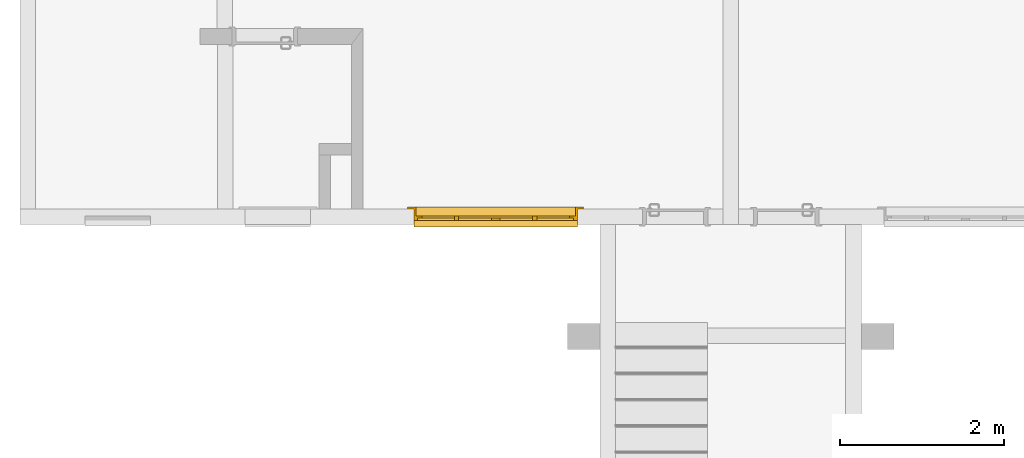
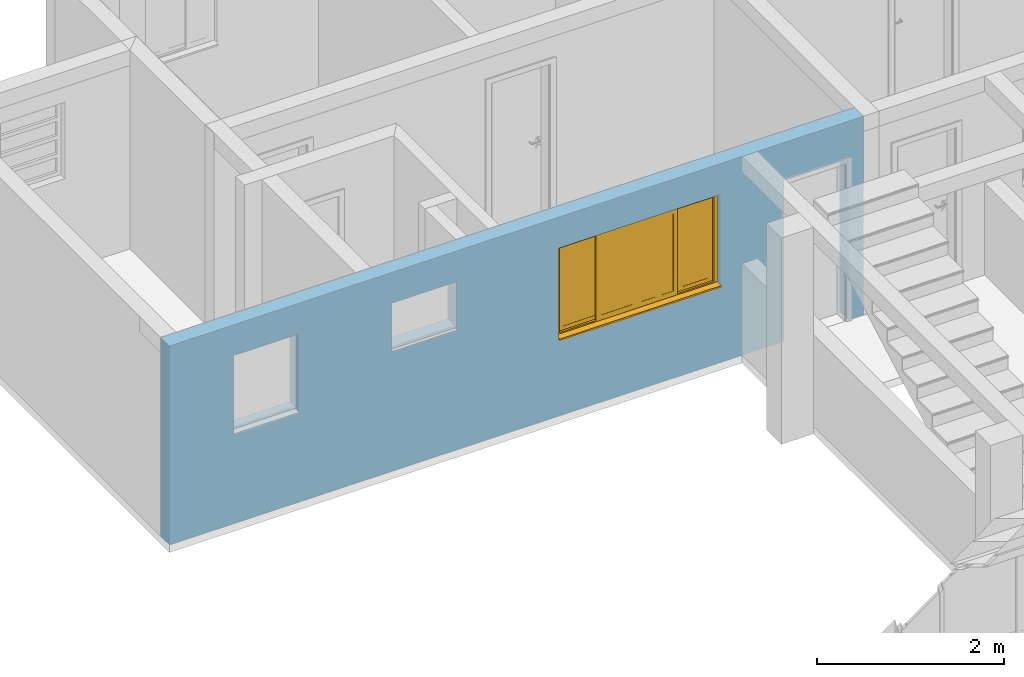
# One storey, part 25 of 43: 1 window, 4 openings, plus 1 element that does not belong to this part.
"""IFC2X3 building model written with IfcOpenShell, lengths in millimetres."""

from ifc_helpers import new_model, entity, si_unit, converted_unit, derived_unit, money_unit, direction, frame, origin_with_axes, origin_2d_with_axis, place, context, subcontext, project, spatial, polyline, rectangle, outline, extrude, open_shell, faceted_brep, surface_model, source, transform, mapped, material, layer, layer_set, layer_usage, type_object, element, fill, save


model = new_model("IFC2X3")

# Units and contexts
model_context = context("Model", 3, precision=0.01, world=origin_with_axes(), true_north=direction((0.0, 1.0)))
body_context = subcontext(model_context, "Body", "Model", "MODEL_VIEW")
ifc_project = project(units=[si_unit("LENGTHUNIT", "METRE", prefix="MILLI"), si_unit("AREAUNIT", "SQUARE_METRE"), si_unit("VOLUMEUNIT", "CUBIC_METRE"), converted_unit("PLANEANGLEUNIT", "DEGREE", entity("IfcPlaneAngleMeasure", 0.0174532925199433), si_unit("PLANEANGLEUNIT", "RADIAN"), dimensions=[0, 0, 0, 0, 0, 0, 0]), money_unit("USD"), converted_unit("TIMEUNIT", "Year", entity("IfcTimeMeasure", 31557600.0), si_unit("TIMEUNIT", "SECOND"), dimensions=[0, 0, 1, 0, 0, 0, 0]), si_unit("MASSUNIT", "GRAM", prefix="KILO"), si_unit("THERMODYNAMICTEMPERATUREUNIT", "DEGREE_CELSIUS"), si_unit("LUMINOUSINTENSITYUNIT", "LUMEN"), si_unit("ENERGYUNIT", "JOULE", prefix="MEGA"), derived_unit("THERMALCONDUCTANCEUNIT", [(si_unit("POWERUNIT", "WATT"), 1), (si_unit("LENGTHUNIT", "METRE"), -1), (si_unit("THERMODYNAMICTEMPERATUREUNIT", "KELVIN"), -1)]), derived_unit("SPECIFICHEATCAPACITYUNIT", [(si_unit("ENERGYUNIT", "JOULE"), 1), (si_unit("MASSUNIT", "GRAM", prefix="KILO"), -1), (si_unit("THERMODYNAMICTEMPERATUREUNIT", "KELVIN"), -1)]), derived_unit("MASSDENSITYUNIT", [(si_unit("MASSUNIT", "GRAM", prefix="KILO"), 1), (si_unit("VOLUMEUNIT", "CUBIC_METRE"), -1)])], contexts=[model_context])

# Site, building, storey
site_placement = place(None, origin_with_axes())
site = spatial("IfcSite", under=ifc_project, at=site_placement, Name="Local", CompositionType="ELEMENT")
building_placement = place(site_placement, origin_with_axes())
building = spatial("IfcBuilding", under=site, at=building_placement, Name="Construção", CompositionType="ELEMENT")
storey_placement = place(building_placement, origin_with_axes())
storey = spatial("IfcBuildingStorey", under=building, at=storey_placement, Name="Pavimento Tipo", CompositionType="ELEMENT", Elevation=0.0)

# Wall, openings, window
ifc_material = material(Name="Concreto - Estrutural")
ifc_layer = layer(ifc_material, 190.0, ventilated="UNKNOWN")
ifc_layer_set = layer_set([ifc_layer], Name="Concreto - Estrutural 190")
ifc_layer_usage = layer_usage(ifc_layer_set, "AXIS2", "NEGATIVE", 0.0)
wall_type = type_object("IfcWallType", Name="Concreto - Estrutural 190", PredefinedType="NOTDEFINED")
wall_placement = place(storey_placement, frame((55117.434598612, 5832.461520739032, 0.0), z_axis=(0.0, 0.0, 1.0), x_axis=(1.0, 0.0, 0.0)))
wall = element("IfcWallStandardCase", 1, at=wall_placement, inside=storey, type_object=wall_type, material=ifc_layer_usage, Name="Apartamento 2 - Parede-001", context=body_context, shape_type="SweptSolid", body=[
    extrude(outline(polyline([(0.0, -190.0000000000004), (8584.765133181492, -190.0000000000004), (8584.765133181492, 0.0), (0.0, 0.0), (0.0, -190.0000000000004)])), origin_with_axes(), (0.0, 0.0, 1.0), 2600.0),
])
opening_1_placement = place(wall_placement, frame((1195.000000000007, 0.0, 1200.0), z_axis=(0.0, 0.0, 1.0), x_axis=(1.0, 0.0, 0.0)))
element("IfcOpeningElement", 2, at=opening_1_placement, cuts=wall, Name="Apartamento 2 - J03", context=body_context, shape_type="SweptSolid", body=[
    extrude(rectangle(XDim=799.9999999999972, YDim=1000.0, at=origin_2d_with_axis()), frame((0.0, -140.0000000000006, 500.0), z_axis=(0.0, -1.0, 0.0), x_axis=(-1.0, 0.0, 0.0)), (0.0, 0.0, -1.0), 330.0),
    extrude(rectangle(XDim=799.9999999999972, YDim=1000.0, at=origin_2d_with_axis()), frame((0.0, -140.0000000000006, 500.0), z_axis=(0.0, 1.0, 0.0), x_axis=(-1.0, 0.0, 0.0)), (0.0, 0.0, -1.0), 240.0),
    extrude(rectangle(XDim=799.9999999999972, YDim=30.00000000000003, at=origin_2d_with_axis()), frame((0.0, -105.0000000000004, -15.00000000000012), z_axis=(0.0, 1.0, 0.0), x_axis=(-1.0, 0.0, 0.0)), (0.0, 0.0, -1.0), 225.0),
])
opening_2_placement = place(wall_placement, frame((3149.999999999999, 0.0, 1600.0), z_axis=(0.0, 0.0, 1.0), x_axis=(1.0, 0.0, 0.0)))
element("IfcOpeningElement", 3, at=opening_2_placement, cuts=wall, Name="Apartamento 2 - J02", context=body_context, shape_type="SweptSolid", body=[
    extrude(rectangle(XDim=799.9999999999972, YDim=600.0000000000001, at=origin_2d_with_axis()), frame((0.0, 190.0000000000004, 300.0000000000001), z_axis=(0.0, -1.0, 0.0), x_axis=(-1.0, 0.0, 0.0)), (0.0, 0.0, 1.0), 570.0000000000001),
    extrude(rectangle(XDim=799.9999999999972, YDim=30.00000000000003, at=origin_2d_with_axis()), frame((0.0, -155.0000000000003, -15.00000000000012), z_axis=(0.0, 1.0, 0.0), x_axis=(-1.0, 0.0, 0.0)), (0.0, 0.0, -1.0), 225.0),
    extrude(rectangle(XDim=950.0000000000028, YDim=750.0, at=origin_2d_with_axis()), frame((0.0, 0.0, 300.0000000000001), z_axis=(0.0, -1.0, 0.0), x_axis=(-1.0, 0.0, 0.0)), (0.0, 0.0, -1.0), 190.0),
])
opening_3_placement = place(wall_placement, frame((5810.000000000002, 0.0, 1000.0), z_axis=(0.0, 0.0, 1.0), x_axis=(1.0, 0.0, 0.0)))
opening_3 = element("IfcOpeningElement", 4, at=opening_3_placement, cuts=wall, Name="Apartamento 2 - J01", context=body_context, shape_type="SweptSolid", body=[
    extrude(rectangle(XDim=2000.0, YDim=1200.0, at=origin_2d_with_axis()), frame((0.0, -140.0000000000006, 600.0000000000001), z_axis=(0.0, 1.0, 0.0), x_axis=(1.0, 0.0, 0.0)), (0.0, 0.0, 1.0), 330.0),
    extrude(rectangle(XDim=2000.0, YDim=1200.0, at=origin_2d_with_axis()), frame((0.0, -140.0000000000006, 600.0000000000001), z_axis=(0.0, -1.0, 0.0), x_axis=(1.0, 0.0, 0.0)), (0.0, 0.0, 1.0), 240.0),
    extrude(rectangle(XDim=2150.000000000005, YDim=1350.0, at=origin_2d_with_axis()), frame((0.0, 0.0, 599.9999999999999), z_axis=(0.0, 1.0, 0.0), x_axis=(1.0, 0.0, 0.0)), (0.0, 0.0, 1.0), 240.0),
])
opening_4_placement = place(wall_placement, frame((8000.000000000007, 0.0, 0.0), z_axis=(0.0, 0.0, 1.0), x_axis=(1.0, 0.0, 0.0)))
element("IfcOpeningElement", 5, at=opening_4_placement, cuts=wall, Name="Apartamento 2 - P01", context=body_context, shape_type="SweptSolid", body=[
    extrude(rectangle(XDim=799.9999999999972, YDim=2100.0, at=origin_2d_with_axis()), frame((0.0, 190.0000000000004, 1050.0), z_axis=(0.0, -1.0, 0.0), x_axis=(1.0, 0.0, 0.0)), (0.0, 0.0, 1.0), 570.0000000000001),
    extrude(rectangle(XDim=870.0000000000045, YDim=2135.0, at=origin_2d_with_axis()), frame((0.0, 0.0, 1067.5), z_axis=(0.0, -1.0, 0.0), x_axis=(1.0, 0.0, 0.0)), (0.0, 0.0, -1.0), 190.0),
    extrude(rectangle(XDim=870.0000000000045, YDim=2135.0, at=origin_2d_with_axis()), frame((0.0, -189.9999999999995, 1067.5), z_axis=(0.0, 1.0, 0.0), x_axis=(1.0, 0.0, 0.0)), (0.0, 0.0, -1.0), 190.0),
])
window_style = type_object("IfcWindowStyle", Name="Janela de Correr 4-Folhas 27", ConstructionType="NOTDEFINED", OperationType="USERDEFINED", ParameterTakesPrecedence=False, Sizeable=False)
shared_shape = source(origin_with_axes(), body_context, "Body", "SurfaceModel", [
    faceted_brep([(1000.0, 0.0, 5.0), (1000.0, 50.0, 5.000000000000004), (1000.0, 50.0, 27.37961103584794), (1000.0, 0.0, 30.0), (-1000.0, 0.0, 5.0), (-1000.0, 50.0, 5.000000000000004), (-1000.0, 80.0, 5.000000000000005), (1000.0, 80.0, 5.000000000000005), (1000.0, 80.0, 25.8073776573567), (-1000.0, 80.0, 25.8073776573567), (-1000.0, 50.0, 27.37961103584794), (-1000.0, 0.0, 30.0)], [[[0, 1, 2, 3]], [[0, 4, 5, 6, 7, 1]], [[1, 7, 8, 2]], [[3, 2, 8, 9, 10, 11]], [[4, 0, 3, 11]], [[5, 4, 11, 10]], [[6, 5, 10, 9]], [[7, 6, 9, 8]]]),
    faceted_brep([(1000.0, 0.0, 0.0), (1000.0, 50.0, 0.0), (1000.0, 50.0, 5.0), (1000.0, 0.0, 5.0), (-1000.0, 0.0, 0.0), (-1000.0, 50.0, 0.0), (-1000.0, 50.0, 5.0), (-1000.0, 0.0, 5.0)], [[[0, 1, 2, 3]], [[0, 4, 5, 1]], [[1, 5, 6, 2]], [[3, 2, 6, 7]], [[4, 0, 3, 7]], [[5, 4, 7, 6]]]),
    faceted_brep([(1000.0, -50.0, 0.0), (1000.0, -140.0, 0.0), (-1000.0, -140.0, 0.0), (-1000.0, -50.0, 0.0), (1000.0, -50.00000000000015, 1200.0), (1000.0, -140.0000000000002, 1200.0), (-1000.0, -140.0000000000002, 1200.0), (975.0, -140.0, 24.99999999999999), (-975.0, -140.0, 24.99999999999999), (-975.0, -140.0000000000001, 1175.0), (975.0, -140.0000000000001, 1175.0), (-1000.0, -50.00000000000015, 1200.0), (975.0, -50.0, 24.99999999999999), (975.0, -50.00000000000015, 1175.0), (-975.0, -50.00000000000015, 1175.0), (-975.0, -50.0, 24.99999999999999)], [[[0, 1, 2, 3]], [[4, 5, 1, 0]], [[1, 5, 6, 2], [7, 8, 9, 10]], [[3, 2, 6, 11]], [[0, 3, 11, 4], [12, 13, 14, 15]], [[11, 6, 5, 4]], [[15, 8, 7, 12]], [[14, 9, 8, 15]], [[13, 10, 9, 14]], [[12, 7, 10, 13]]]),
    faceted_brep([(1075.0, -165.0, -75.00000000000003), (975.0, -165.0, 24.99999999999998), (975.0, -140.0, 24.99999999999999), (1075.0, -140.0, -75.00000000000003), (1075.0, -165.0000000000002, 1275.0), (975.0, -165.0000000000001, 1175.0), (975.0, -140.0000000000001, 1175.0), (1075.0, -140.0000000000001, 1275.0)], [[[0, 1, 2, 3]], [[0, 4, 5, 1]], [[1, 5, 6, 2]], [[3, 2, 6, 7]], [[4, 0, 3, 7]], [[5, 4, 7, 6]]]),
    faceted_brep([(-1075.0, -165.0000000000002, 1275.0), (-975.0, -165.0000000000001, 1175.0), (-975.0, -140.0000000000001, 1175.0), (-1075.0, -140.0000000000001, 1275.0), (-1075.0, -165.0, -75.00000000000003), (-975.0, -165.0, 24.99999999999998), (-975.0, -140.0, 24.99999999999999), (-1075.0, -140.0, -75.00000000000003)], [[[0, 1, 2, 3]], [[0, 4, 5, 1]], [[1, 5, 6, 2]], [[3, 2, 6, 7]], [[4, 0, 3, 7]], [[5, 4, 7, 6]]]),
    faceted_brep([(-1075.0, -165.0, -75.00000000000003), (-975.0, -165.0, 24.99999999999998), (-975.0, -140.0, 24.99999999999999), (-1075.0, -140.0, -75.00000000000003), (1075.0, -165.0, -75.00000000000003), (975.0, -165.0, 24.99999999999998), (975.0, -140.0, 24.99999999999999), (1075.0, -140.0, -75.00000000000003)], [[[0, 1, 2, 3]], [[0, 4, 5, 1]], [[1, 5, 6, 2]], [[3, 2, 6, 7]], [[4, 0, 3, 7]], [[5, 4, 7, 6]]]),
    faceted_brep([(1075.0, -165.0000000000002, 1275.0), (975.0, -165.0000000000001, 1175.0), (975.0, -140.0000000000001, 1175.0), (1075.0, -140.0000000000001, 1275.0), (-1075.0, -165.0000000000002, 1275.0), (-975.0, -165.0000000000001, 1175.0), (-975.0, -140.0000000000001, 1175.0), (-1075.0, -140.0000000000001, 1275.0)], [[[0, 1, 2, 3]], [[0, 4, 5, 1]], [[1, 5, 6, 2]], [[3, 2, 6, 7]], [[4, 0, 3, 7]], [[5, 4, 7, 6]]]),
    faceted_brep([(953.0, -50.00000000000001, 47.0), (953.0, -50.00000000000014, 1153.0), (953.0, 0.0, 1153.0), (953.0, 0.0, 47.00000000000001), (1000.0, -50.00000000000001, 47.0), (1000.0, -50.00000000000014, 1153.0), (1000.0, 0.0, 1153.0), (1000.0, 0.0, 47.00000000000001)], [[[0, 1, 2, 3]], [[0, 4, 5, 1]], [[1, 5, 6, 2]], [[3, 2, 6, 7]], [[4, 0, 3, 7]], [[5, 4, 7, 6]]]),
    faceted_brep([(-1000.0, -50.00000000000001, 47.0), (-1000.0, -50.00000000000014, 1153.0), (-1000.0, 0.0, 1153.0), (-1000.0, 0.0, 47.00000000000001), (-953.0, -50.00000000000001, 47.0), (-953.0, -50.00000000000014, 1153.0), (-953.0, 0.0, 1153.0), (-953.0, 0.0, 47.00000000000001)], [[[0, 1, 2, 3]], [[0, 4, 5, 1]], [[1, 5, 6, 2]], [[3, 2, 6, 7]], [[4, 0, 3, 7]], [[5, 4, 7, 6]]]),
    faceted_brep([(-1000.0, -50.00000000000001, 47.0), (-953.0, -50.00000000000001, 47.0), (-953.0, 0.0, 47.00000000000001), (-1000.0, 0.0, 47.00000000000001), (-1000.0, -50.0, 0.0), (1000.0, -50.0, 0.0), (1000.0, -50.00000000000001, 47.0), (953.0, -50.00000000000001, 47.0), (953.0, 0.0, 47.00000000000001), (1000.0, 0.0, 47.00000000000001), (1000.0, 0.0, 0.0), (-1000.0, 0.0, 0.0)], [[[0, 1, 2, 3]], [[0, 4, 5, 6, 7, 1]], [[1, 7, 8, 2]], [[3, 2, 8, 9, 10, 11]], [[4, 0, 3, 11]], [[5, 4, 11, 10]], [[6, 5, 10, 9]], [[7, 6, 9, 8]]]),
    faceted_brep([(-1000.0, -50.00000000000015, 1200.0), (1000.0, -50.00000000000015, 1200.0), (1000.0, 0.0, 1200.0), (-1000.0, 0.0, 1200.0), (-1000.0, -50.00000000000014, 1153.0), (-953.0, -50.00000000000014, 1153.0), (-476.5000000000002, -50.00000000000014, 1153.0), (0.0, -50.00000000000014, 1153.0), (476.4999999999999, -50.00000000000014, 1153.0), (953.0, -50.00000000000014, 1153.0), (1000.0, -50.00000000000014, 1153.0), (1000.0, 0.0, 1153.0), (953.0, 0.0, 1153.0), (476.4999999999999, 0.0, 1153.0), (0.0, 0.0, 1153.0), (-476.5000000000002, 0.0, 1153.0), (-953.0, 0.0, 1153.0), (-1000.0, 0.0, 1153.0)], [[[0, 1, 2, 3]], [[0, 4, 5, 6, 7, 8, 9, 10, 1]], [[1, 10, 11, 2]], [[3, 2, 11, 12, 13, 14, 15, 16, 17]], [[4, 0, 3, 17]], [[5, 4, 17, 16]], [[6, 5, 16, 15]], [[7, 6, 15, 14]], [[8, 7, 14, 13]], [[9, 8, 13, 12]], [[10, 9, 12, 11]]]),
    faceted_brep([(903.0, -50.00000000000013, 1103.0), (953.0, -50.00000000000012, 1103.0), (953.0, -25.00000000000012, 1103.0), (903.0, -25.00000000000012, 1103.0), (903.0, -50.0, 97.0), (953.0, -50.0, 97.0), (953.0, -25.0, 97.0), (903.0, -25.0, 97.0)], [[[0, 1, 2, 3]], [[0, 4, 5, 1]], [[1, 5, 6, 2]], [[3, 2, 6, 7]], [[4, 0, 3, 7]], [[5, 4, 7, 6]]]),
    faceted_brep([(501.4999999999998, -50.00000000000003, 97.0), (451.4999999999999, -50.00000000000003, 97.0), (451.4999999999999, -25.00000000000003, 97.0), (501.4999999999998, -25.00000000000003, 97.0), (501.4999999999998, -50.00000000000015, 1103.0), (451.4999999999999, -50.00000000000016, 1103.0), (451.4999999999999, -25.00000000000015, 1103.0), (501.4999999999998, -25.00000000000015, 1103.0)], [[[0, 1, 2, 3]], [[0, 4, 5, 1]], [[1, 5, 6, 2]], [[3, 2, 6, 7]], [[4, 0, 3, 7]], [[5, 4, 7, 6]]]),
    faceted_brep([(451.4999999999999, -50.00000000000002, 47.0), (451.4999999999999, -50.00000000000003, 97.0), (451.4999999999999, -25.00000000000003, 97.0), (451.4999999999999, -25.00000000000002, 47.0), (953.0, -49.99999999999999, 47.0), (953.0, -50.0, 97.0), (903.0, -50.0, 97.0), (501.4999999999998, -50.00000000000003, 97.0), (501.4999999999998, -25.00000000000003, 97.0), (903.0, -25.0, 97.0), (953.0, -25.0, 97.0), (953.0, -24.99999999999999, 47.0)], [[[0, 1, 2, 3]], [[0, 4, 5, 6, 7, 1]], [[1, 7, 8, 2]], [[3, 2, 8, 9, 10, 11]], [[4, 0, 3, 11]], [[5, 4, 11, 10]], [[6, 5, 10, 9]], [[7, 6, 9, 8]]]),
    faceted_brep([(953.0, -50.00000000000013, 1153.0), (953.0, -50.00000000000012, 1103.0), (953.0, -25.00000000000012, 1103.0), (953.0, -25.00000000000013, 1153.0), (451.4999999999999, -50.00000000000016, 1153.0), (451.4999999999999, -50.00000000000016, 1103.0), (501.4999999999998, -50.00000000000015, 1103.0), (903.0, -50.00000000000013, 1103.0), (903.0, -25.00000000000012, 1103.0), (501.4999999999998, -25.00000000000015, 1103.0), (451.4999999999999, -25.00000000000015, 1103.0), (451.4999999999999, -25.00000000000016, 1153.0)], [[[0, 1, 2, 3]], [[0, 4, 5, 6, 7, 1]], [[1, 7, 8, 2]], [[3, 2, 8, 9, 10, 11]], [[4, 0, 3, 11]], [[5, 4, 11, 10]], [[6, 5, 10, 9]], [[7, 6, 9, 8]]]),
    surface_model("IfcShellBasedSurfaceModel", [(903.0, -47.50000000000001, 97.0), (903.0, -47.50000000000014, 1103.0), (501.4999999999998, -47.50000000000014, 1103.0), (501.4999999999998, -47.50000000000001, 97.0)], [open_shell([[[0, 1, 2, 3]]])]),
    surface_model("IfcShellBasedSurfaceModel", [(903.0, -27.50000000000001, 97.0), (501.4999999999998, -27.50000000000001, 97.0), (501.4999999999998, -27.50000000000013, 1103.0), (903.0, -27.50000000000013, 1103.0)], [open_shell([[[0, 1, 2, 3]]])]),
    faceted_brep([(451.4999999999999, -25.00000000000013, 1103.0), (501.4999999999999, -25.00000000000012, 1103.0), (501.4999999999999, 0.0, 1103.0), (451.4999999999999, 0.0, 1103.0), (451.4999999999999, -25.0, 97.0), (501.4999999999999, -25.0, 97.0), (501.4999999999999, 0.0, 97.0), (451.4999999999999, 0.0, 97.0)], [[[0, 1, 2, 3]], [[0, 4, 5, 1]], [[1, 5, 6, 2]], [[3, 2, 6, 7]], [[4, 0, 3, 7]], [[5, 4, 7, 6]]]),
    faceted_brep([(49.99999999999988, -25.00000000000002, 97.0), (0.0, -25.00000000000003, 97.0), (0.0, 0.0, 97.0), (49.99999999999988, 0.0, 97.0), (49.99999999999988, -25.00000000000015, 1103.0), (0.0, -25.00000000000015, 1103.0), (0.0, 0.0, 1103.0), (49.99999999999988, 0.0, 1103.0)], [[[0, 1, 2, 3]], [[0, 4, 5, 1]], [[1, 5, 6, 2]], [[3, 2, 6, 7]], [[4, 0, 3, 7]], [[5, 4, 7, 6]]]),
    faceted_brep([(0.0, -25.00000000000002, 47.0), (0.0, -25.00000000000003, 97.0), (0.0, 0.0, 97.0), (0.0, 0.0, 47.0), (501.4999999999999, -24.99999999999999, 47.0), (501.4999999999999, -25.0, 97.0), (451.4999999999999, -25.0, 97.0), (49.99999999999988, -25.00000000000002, 97.0), (49.99999999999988, 0.0, 97.0), (451.4999999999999, 0.0, 97.0), (501.4999999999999, 0.0, 97.0), (501.4999999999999, 0.0, 47.0)], [[[0, 1, 2, 3]], [[0, 4, 5, 6, 7, 1]], [[1, 7, 8, 2]], [[3, 2, 8, 9, 10, 11]], [[4, 0, 3, 11]], [[5, 4, 11, 10]], [[6, 5, 10, 9]], [[7, 6, 9, 8]]]),
    faceted_brep([(501.4999999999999, -25.00000000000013, 1153.0), (501.4999999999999, -25.00000000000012, 1103.0), (501.4999999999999, 0.0, 1103.0), (501.4999999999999, 0.0, 1153.0), (0.0, -25.00000000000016, 1153.0), (0.0, -25.00000000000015, 1103.0), (49.99999999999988, -25.00000000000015, 1103.0), (451.4999999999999, -25.00000000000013, 1103.0), (451.4999999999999, 0.0, 1103.0), (49.99999999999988, 0.0, 1103.0), (0.0, 0.0, 1103.0), (0.0, 0.0, 1153.0)], [[[0, 1, 2, 3]], [[0, 4, 5, 6, 7, 1]], [[1, 7, 8, 2]], [[3, 2, 8, 9, 10, 11]], [[4, 0, 3, 11]], [[5, 4, 11, 10]], [[6, 5, 10, 9]], [[7, 6, 9, 8]]]),
    surface_model("IfcShellBasedSurfaceModel", [(451.4999999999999, -22.50000000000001, 97.0), (451.4999999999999, -22.50000000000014, 1103.0), (49.99999999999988, -22.50000000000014, 1103.0), (49.99999999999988, -22.50000000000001, 97.0)], [open_shell([[[0, 1, 2, 3]]])]),
    surface_model("IfcShellBasedSurfaceModel", [(451.4999999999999, -2.500000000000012, 97.0), (49.99999999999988, -2.500000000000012, 97.0), (49.99999999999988, -2.500000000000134, 1103.0), (451.4999999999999, -2.500000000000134, 1103.0)], [open_shell([[[0, 1, 2, 3]]])]),
    faceted_brep([(-50.0000000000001, -25.00000000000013, 1103.0), (0.0, -25.00000000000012, 1103.0), (0.0, 0.0, 1103.0), (-50.0000000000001, 0.0, 1103.0), (-50.0000000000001, -25.0, 97.0), (0.0, -25.0, 97.0), (0.0, 0.0, 97.0), (-50.0000000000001, 0.0, 97.0)], [[[0, 1, 2, 3]], [[0, 4, 5, 1]], [[1, 5, 6, 2]], [[3, 2, 6, 7]], [[4, 0, 3, 7]], [[5, 4, 7, 6]]]),
    faceted_brep([(-451.5000000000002, -25.00000000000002, 97.0), (-501.5000000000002, -25.00000000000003, 97.0), (-501.5000000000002, 0.0, 97.0), (-451.5000000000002, 0.0, 97.0), (-451.5000000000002, -25.00000000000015, 1103.0), (-501.5000000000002, -25.00000000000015, 1103.0), (-501.5000000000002, 0.0, 1103.0), (-451.5000000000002, 0.0, 1103.0)], [[[0, 1, 2, 3]], [[0, 4, 5, 1]], [[1, 5, 6, 2]], [[3, 2, 6, 7]], [[4, 0, 3, 7]], [[5, 4, 7, 6]]]),
    faceted_brep([(-501.5000000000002, -25.00000000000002, 47.0), (-501.5000000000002, -25.00000000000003, 97.0), (-501.5000000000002, 0.0, 97.0), (-501.5000000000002, 0.0, 47.0), (0.0, -24.99999999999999, 47.0), (0.0, -25.0, 97.0), (-50.0000000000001, -25.0, 97.0), (-451.5000000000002, -25.00000000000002, 97.0), (-451.5000000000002, 0.0, 97.0), (-50.0000000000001, 0.0, 97.0), (0.0, 0.0, 97.0), (0.0, 0.0, 47.0)], [[[0, 1, 2, 3]], [[0, 4, 5, 6, 7, 1]], [[1, 7, 8, 2]], [[3, 2, 8, 9, 10, 11]], [[4, 0, 3, 11]], [[5, 4, 11, 10]], [[6, 5, 10, 9]], [[7, 6, 9, 8]]]),
    faceted_brep([(0.0, -25.00000000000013, 1153.0), (0.0, -25.00000000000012, 1103.0), (0.0, 0.0, 1103.0), (0.0, 0.0, 1153.0), (-501.5000000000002, -25.00000000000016, 1153.0), (-501.5000000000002, -25.00000000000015, 1103.0), (-451.5000000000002, -25.00000000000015, 1103.0), (-50.0000000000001, -25.00000000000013, 1103.0), (-50.0000000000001, 0.0, 1103.0), (-451.5000000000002, 0.0, 1103.0), (-501.5000000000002, 0.0, 1103.0), (-501.5000000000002, 0.0, 1153.0)], [[[0, 1, 2, 3]], [[0, 4, 5, 6, 7, 1]], [[1, 7, 8, 2]], [[3, 2, 8, 9, 10, 11]], [[4, 0, 3, 11]], [[5, 4, 11, 10]], [[6, 5, 10, 9]], [[7, 6, 9, 8]]]),
    surface_model("IfcShellBasedSurfaceModel", [(-50.0000000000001, -22.50000000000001, 97.0), (-50.0000000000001, -22.50000000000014, 1103.0), (-451.5000000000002, -22.50000000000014, 1103.0), (-451.5000000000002, -22.50000000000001, 97.0)], [open_shell([[[0, 1, 2, 3]]])]),
    surface_model("IfcShellBasedSurfaceModel", [(-50.0000000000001, -2.500000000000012, 97.0), (-451.5000000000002, -2.500000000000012, 97.0), (-451.5000000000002, -2.500000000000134, 1103.0), (-50.0000000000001, -2.500000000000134, 1103.0)], [open_shell([[[0, 1, 2, 3]]])]),
    faceted_brep([(-501.5000000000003, -50.00000000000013, 1103.0), (-451.5000000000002, -50.00000000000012, 1103.0), (-451.5000000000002, -25.00000000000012, 1103.0), (-501.5000000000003, -25.00000000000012, 1103.0), (-501.5000000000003, -50.0, 97.0), (-451.5000000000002, -50.0, 97.0), (-451.5000000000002, -25.0, 97.0), (-501.5000000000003, -25.0, 97.0)], [[[0, 1, 2, 3]], [[0, 4, 5, 1]], [[1, 5, 6, 2]], [[3, 2, 6, 7]], [[4, 0, 3, 7]], [[5, 4, 7, 6]]]),
    faceted_brep([(-903.0000000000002, -50.00000000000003, 97.0), (-953.0000000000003, -50.00000000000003, 97.0), (-953.0000000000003, -25.00000000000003, 97.0), (-903.0000000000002, -25.00000000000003, 97.0), (-903.0000000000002, -50.00000000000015, 1103.0), (-953.0000000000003, -50.00000000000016, 1103.0), (-953.0000000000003, -25.00000000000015, 1103.0), (-903.0000000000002, -25.00000000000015, 1103.0)], [[[0, 1, 2, 3]], [[0, 4, 5, 1]], [[1, 5, 6, 2]], [[3, 2, 6, 7]], [[4, 0, 3, 7]], [[5, 4, 7, 6]]]),
    faceted_brep([(-953.0000000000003, -50.00000000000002, 47.0), (-953.0000000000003, -50.00000000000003, 97.0), (-953.0000000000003, -25.00000000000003, 97.0), (-953.0000000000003, -25.00000000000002, 47.0), (-451.5000000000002, -49.99999999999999, 47.0), (-451.5000000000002, -50.0, 97.0), (-501.5000000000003, -50.0, 97.0), (-903.0000000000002, -50.00000000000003, 97.0), (-903.0000000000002, -25.00000000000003, 97.0), (-501.5000000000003, -25.0, 97.0), (-451.5000000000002, -25.0, 97.0), (-451.5000000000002, -24.99999999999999, 47.0)], [[[0, 1, 2, 3]], [[0, 4, 5, 6, 7, 1]], [[1, 7, 8, 2]], [[3, 2, 8, 9, 10, 11]], [[4, 0, 3, 11]], [[5, 4, 11, 10]], [[6, 5, 10, 9]], [[7, 6, 9, 8]]]),
    faceted_brep([(-451.5000000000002, -50.00000000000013, 1153.0), (-451.5000000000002, -50.00000000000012, 1103.0), (-451.5000000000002, -25.00000000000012, 1103.0), (-451.5000000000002, -25.00000000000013, 1153.0), (-953.0000000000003, -50.00000000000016, 1153.0), (-953.0000000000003, -50.00000000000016, 1103.0), (-903.0000000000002, -50.00000000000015, 1103.0), (-501.5000000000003, -50.00000000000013, 1103.0), (-501.5000000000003, -25.00000000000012, 1103.0), (-903.0000000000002, -25.00000000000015, 1103.0), (-953.0000000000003, -25.00000000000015, 1103.0), (-953.0000000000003, -25.00000000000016, 1153.0)], [[[0, 1, 2, 3]], [[0, 4, 5, 6, 7, 1]], [[1, 7, 8, 2]], [[3, 2, 8, 9, 10, 11]], [[4, 0, 3, 11]], [[5, 4, 11, 10]], [[6, 5, 10, 9]], [[7, 6, 9, 8]]]),
    surface_model("IfcShellBasedSurfaceModel", [(-501.5000000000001, -47.50000000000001, 97.0), (-501.5000000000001, -47.50000000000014, 1103.0), (-903.0000000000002, -47.50000000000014, 1103.0), (-903.0000000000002, -47.50000000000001, 97.0)], [open_shell([[[0, 1, 2, 3]]])]),
    surface_model("IfcShellBasedSurfaceModel", [(-501.5000000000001, -27.50000000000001, 97.0), (-903.0000000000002, -27.50000000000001, 97.0), (-903.0000000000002, -27.50000000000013, 1103.0), (-501.5000000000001, -27.50000000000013, 1103.0)], [open_shell([[[0, 1, 2, 3]]])]),
])
window_placement = place(opening_3_placement, frame((1000.0, 0.0, 0.0), z_axis=(0.0, 0.0, 1.0), x_axis=(-1.0, 0.0, 0.0)))
window = element("IfcWindow", 6, at=window_placement, inside=storey, type_object=window_style, Name="Apartamento 2 - J01", ObjectType="WINDOW", OverallHeight=1200.0, OverallWidth=2000.0, context=body_context, shape_type="MappedRepresentation", body=[
    mapped(shared_shape, transform((1000.0, 140.0000000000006, 0.0))),
])
fill(opening_3, window)

save(model, "model.ifc")
